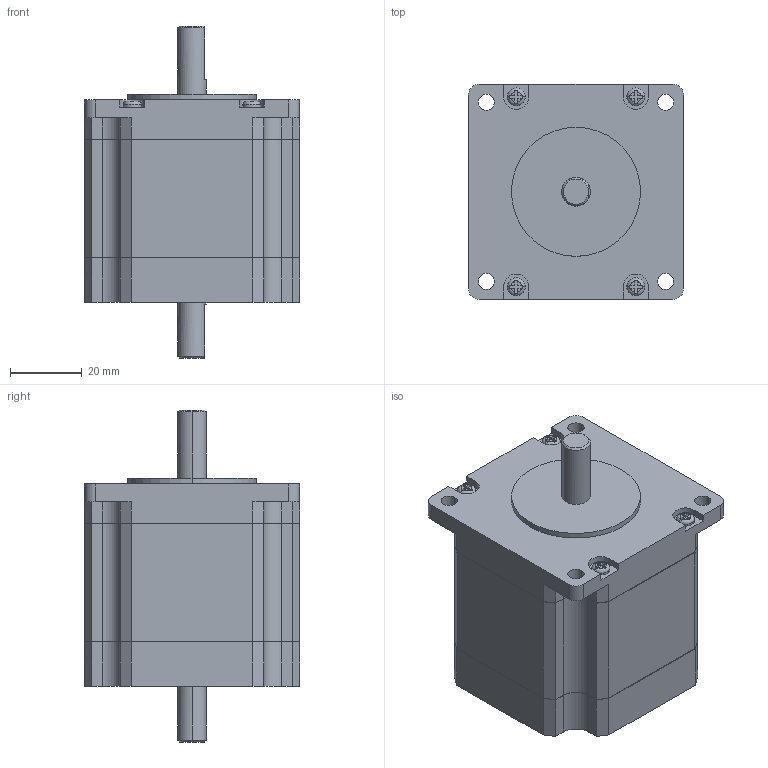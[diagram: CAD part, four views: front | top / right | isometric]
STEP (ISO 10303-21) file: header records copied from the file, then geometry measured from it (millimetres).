
FILE_DESCRIPTION (( 'STEP AP214' ), '1' );
FILE_NAME ('TS3624N22.STEP', '2011-09-15T09:00:42', ( '' ), ( '' ), 'SwSTEP 2.0', 'SolidWorks 2010', '' );
FILE_SCHEMA (( 'AUTOMOTIVE_DESIGN' ));
Length unit declared in the file: millimetre
Products named in the file (1): TS3624N22
Bounding box: 60 x 60 x 92.6 mm (x, y, z)
Volume: 184651.1 mm3; surface area: 21111.7 mm2
Topology: 1 solids, 1 shells, 213 faces, 590 edges, 388 vertices
Faces by surface type: plane 139, cylinder 62, torus 8, cone 4
Entity records: 7222 total; most frequent: CARTESIAN_POINT 1376, ORIENTED_EDGE 1180, DIRECTION 1142, EDGE_CURVE 590, VECTOR 394, LINE 394, VERTEX_POINT 388, AXIS2_PLACEMENT_3D 374
